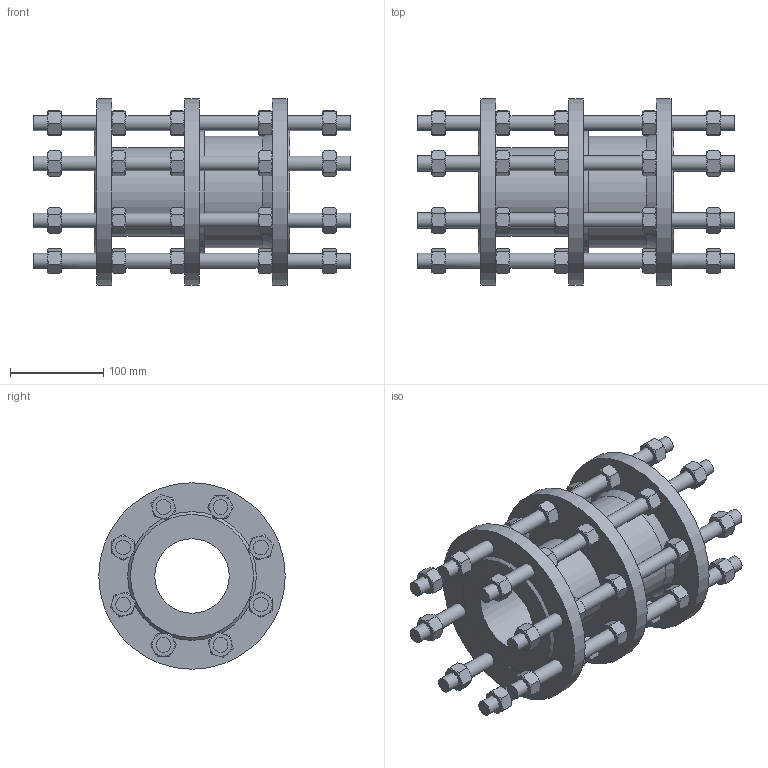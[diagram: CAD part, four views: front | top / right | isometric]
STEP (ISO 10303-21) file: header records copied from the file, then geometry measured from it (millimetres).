
FILE_DESCRIPTION (( 'STEP AP203' ), '1' );
FILE_NAME ('873008000741000.STEP', '2021-11-05T08:09:09', ( '' ), ( '' ), 'SwSTEP 2.0', 'SolidWorks 2020', '' );
FILE_SCHEMA (( 'CONFIG_CONTROL_DESIGN' ));
Length unit declared in the file: millimetre
Products named in the file (1): 873008000741000
Bounding box: 340 x 200 x 200 mm (x, y, z)
Volume: 2668188.8 mm3; surface area: 488661.2 mm2
Topology: 41 solids, 41 shells, 907 faces, 1955 edges, 1153 vertices
Faces by surface type: cone 483, plane 345, cylinder 79
Full cylindrical faces by diameter (mm): 14 x40, 16 x32, 80 x1, 95 x1, 120 x1, 136 x1, 200 x3
Entity records: 28449 total; most frequent: CARTESIAN_POINT 10594, ORIENTED_EDGE 3686, DIRECTION 3342, EDGE_CURVE 1843, AXIS2_PLACEMENT_3D 1551, EDGE_LOOP 1126, VERTEX_POINT 1123, FACE_OUTER_BOUND 986
